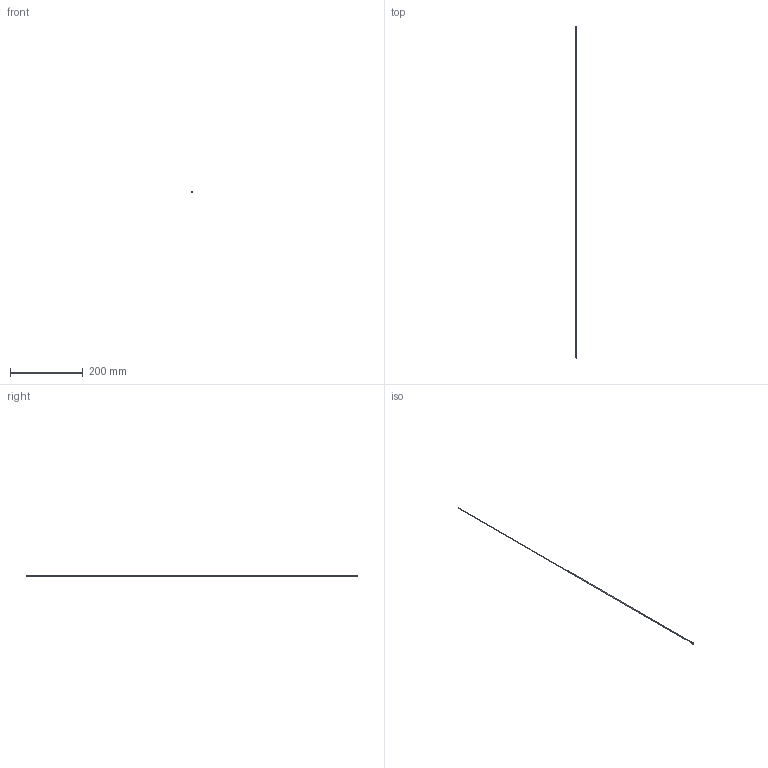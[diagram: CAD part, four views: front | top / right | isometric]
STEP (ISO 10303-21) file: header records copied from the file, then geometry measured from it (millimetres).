
FILE_DESCRIPTION(/* description */ (''),/* implementation_level */ '2;1');
FILE_NAME(/* name */ 'C:/Users/drich/Desktop/R072T-36 v1.step',/* time_stamp */ '2019-12-30T13:10:32-06:00',/* author */ (''),/* organization */ (''),/* preprocessor_version */ 'ST-DEVELOPER v18',/* originating_system */ 'Autodesk Translation Framework v8.12.0.6',/* authorisation */ '');
FILE_SCHEMA (('AUTOMOTIVE_DESIGN { 1 0 10303 214 3 1 1 }'));
Length unit declared in the file: inch
Products named in the file (1): R072T-36
Bounding box: 4.62 x 914.4 x 4.62 mm (x, y, z)
Volume: 784.2 mm3; surface area: 9727.7 mm2
Topology: 1 solids, 1 shells, 19 faces, 47 edges, 33 vertices
Faces by surface type: plane 11, cylinder 4, torus 3, cone 1
Full cylindrical faces by diameter (mm): 1.524 x1, 1.829 x1, 3.096 x1, 4.623 x1
Entity records: 624 total; most frequent: DIRECTION 111, CARTESIAN_POINT 100, ORIENTED_EDGE 94, EDGE_CURVE 47, AXIS2_PLACEMENT_3D 44, VERTEX_POINT 33, EDGE_LOOP 24, CIRCLE 24
